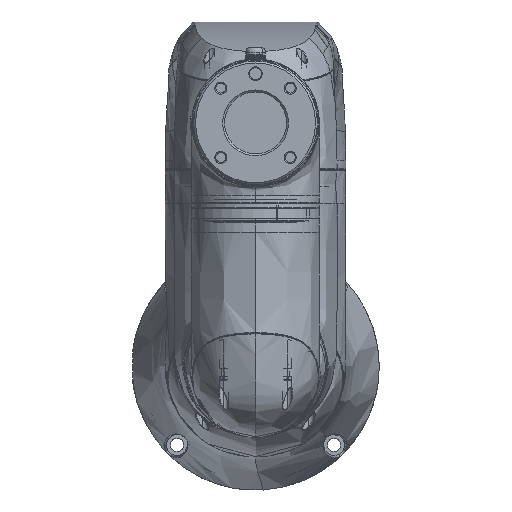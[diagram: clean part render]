
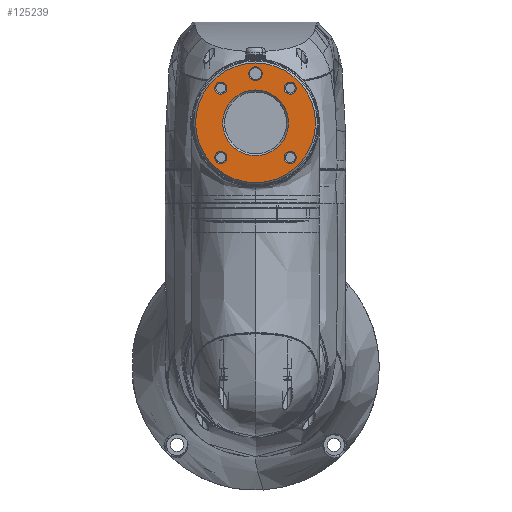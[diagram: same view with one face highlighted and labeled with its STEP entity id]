
A CAD part, front view. The second image highlights one B-rep face of the part: STEP entity #125239.
In plain terms, the highlighted planar face has unit normal (0, -1, 0) as drawn and (-1, 0, 0) by its records, which use the part's own axes.
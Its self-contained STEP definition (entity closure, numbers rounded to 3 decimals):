
#2010 = EDGE_LOOP ( 'NONE', ( #49815, #52928 ) ) ;
#3411 = CARTESIAN_POINT ( 'NONE',  ( 0., -17.678, 17.678 ) ) ;
#5147 = VERTEX_POINT ( 'NONE', #53038 ) ;
#5214 = DIRECTION ( 'NONE',  ( 1., 0., 0. ) ) ;
#5823 = CARTESIAN_POINT ( 'NONE',  ( 0., 0., -30.5 ) ) ;
#6008 = VERTEX_POINT ( 'NONE', #101699 ) ;
#6136 = EDGE_CURVE ( 'NONE', #36883, #63931, #36473, .T. ) ;
#6277 = EDGE_LOOP ( 'NONE', ( #105381, #55488 ) ) ;
#7405 = ORIENTED_EDGE ( 'NONE', *, *, #49925, .F. ) ;
#8824 = DIRECTION ( 'NONE',  ( -1., 0., 0. ) ) ;
#9298 = AXIS2_PLACEMENT_3D ( 'NONE', #58955, #69872, #27574 ) ;
#10654 = CIRCLE ( 'NONE', #100045, 3.1 ) ;
#12274 = DIRECTION ( 'NONE',  ( -1., 0., 0. ) ) ;
#12320 = DIRECTION ( 'NONE',  ( 0., 0., -1. ) ) ;
#12432 = VERTEX_POINT ( 'NONE', #47141 ) ;
#14435 = ORIENTED_EDGE ( 'NONE', *, *, #82551, .F. ) ;
#17187 = FACE_BOUND ( 'NONE', #77503, .T. ) ;
#17854 = CARTESIAN_POINT ( 'NONE',  ( 0., 15.75, 0. ) ) ;
#18501 = DIRECTION ( 'NONE',  ( -1., 0., 0. ) ) ;
#18795 = CIRCLE ( 'NONE', #108156, 3.1 ) ;
#21925 = CIRCLE ( 'NONE', #43738, 3.5 ) ;
#22811 = CARTESIAN_POINT ( 'NONE',  ( 0., -17.678, 14.578 ) ) ;
#24273 = CIRCLE ( 'NONE', #130872, 3.1 ) ;
#24545 = CARTESIAN_POINT ( 'NONE',  ( 0., 17.678, 17.678 ) ) ;
#24984 = CARTESIAN_POINT ( 'NONE',  ( 0., 0., -16.75 ) ) ;
#26289 = DIRECTION ( 'NONE',  ( 0., 0., -1. ) ) ;
#26534 = ORIENTED_EDGE ( 'NONE', *, *, #76037, .F. ) ;
#27410 = DIRECTION ( 'NONE',  ( 1., 0., 0. ) ) ;
#27574 = DIRECTION ( 'NONE',  ( 0., 0., -1. ) ) ;
#28105 = AXIS2_PLACEMENT_3D ( 'NONE', #101125, #27410, #58795 ) ;
#28307 = EDGE_LOOP ( 'NONE', ( #95023, #103275 ) ) ;
#28698 = DIRECTION ( 'NONE',  ( 0., 0., -1. ) ) ;
#29250 = CIRCLE ( 'NONE', #81635, 3.1 ) ;
#32166 = CARTESIAN_POINT ( 'NONE',  ( 0., 17.678, -17.678 ) ) ;
#33328 = EDGE_CURVE ( 'NONE', #46291, #6008, #82768, .T. ) ;
#33377 = DIRECTION ( 'NONE',  ( 0., 0., 1. ) ) ;
#33638 = DIRECTION ( 'NONE',  ( 0., 0., 1. ) ) ;
#34160 = CARTESIAN_POINT ( 'NONE',  ( 0., 0., 16.75 ) ) ;
#35013 = ORIENTED_EDGE ( 'NONE', *, *, #33328, .F. ) ;
#36473 = CIRCLE ( 'NONE', #82309, 16.75 ) ;
#36883 = VERTEX_POINT ( 'NONE', #24984 ) ;
#38075 = AXIS2_PLACEMENT_3D ( 'NONE', #17854, #101779, #28698 ) ;
#40302 = FACE_BOUND ( 'NONE', #2010, .T. ) ;
#40371 = DIRECTION ( 'NONE',  ( 0., 0., 1. ) ) ;
#42331 = CARTESIAN_POINT ( 'NONE',  ( 0., 25., 0. ) ) ;
#43738 = AXIS2_PLACEMENT_3D ( 'NONE', #42331, #106503, #12320 ) ;
#45781 = DIRECTION ( 'NONE',  ( 0., 0., -1. ) ) ;
#46291 = VERTEX_POINT ( 'NONE', #102856 ) ;
#47141 = CARTESIAN_POINT ( 'NONE',  ( 0., 25., -3.5 ) ) ;
#49734 = AXIS2_PLACEMENT_3D ( 'NONE', #89431, #107944, #45781 ) ;
#49815 = ORIENTED_EDGE ( 'NONE', *, *, #91338, .T. ) ;
#49925 = EDGE_CURVE ( 'NONE', #6008, #46291, #29250, .T. ) ;
#50366 = ORIENTED_EDGE ( 'NONE', *, *, #102253, .T. ) ;
#51041 = CARTESIAN_POINT ( 'NONE',  ( 0., 0., 30.5 ) ) ;
#51200 = FACE_OUTER_BOUND ( 'NONE', #106594, .T. ) ;
#52928 = ORIENTED_EDGE ( 'NONE', *, *, #6136, .T. ) ;
#53038 = CARTESIAN_POINT ( 'NONE',  ( 0., 17.678, 14.578 ) ) ;
#53884 = DIRECTION ( 'NONE',  ( 0., 0., 1. ) ) ;
#55488 = ORIENTED_EDGE ( 'NONE', *, *, #114371, .T. ) ;
#58795 = DIRECTION ( 'NONE',  ( 0., 0., -1. ) ) ;
#58955 = CARTESIAN_POINT ( 'NONE',  ( 0., 0., 0. ) ) ;
#59027 = ORIENTED_EDGE ( 'NONE', *, *, #129968, .F. ) ;
#59558 = VERTEX_POINT ( 'NONE', #87017 ) ;
#60125 = FACE_BOUND ( 'NONE', #6277, .T. ) ;
#60912 = EDGE_CURVE ( 'NONE', #101406, #133731, #18795, .T. ) ;
#62538 = CIRCLE ( 'NONE', #112609, 3.1 ) ;
#63931 = VERTEX_POINT ( 'NONE', #34160 ) ;
#66063 = CIRCLE ( 'NONE', #72583, 3.1 ) ;
#66303 = DIRECTION ( 'NONE',  ( 0., 0., -1. ) ) ;
#69185 = VERTEX_POINT ( 'NONE', #51041 ) ;
#69672 = FACE_BOUND ( 'NONE', #92957, .T. ) ;
#69872 = DIRECTION ( 'NONE',  ( -1., 0., 0. ) ) ;
#71990 = DIRECTION ( 'NONE',  ( -1., 0., 0. ) ) ;
#72583 = AXIS2_PLACEMENT_3D ( 'NONE', #119634, #95867, #86355 ) ;
#73162 = CIRCLE ( 'NONE', #88463, 3.1 ) ;
#73705 = CIRCLE ( 'NONE', #49734, 16.75 ) ;
#76037 = EDGE_CURVE ( 'NONE', #108737, #5147, #10654, .T. ) ;
#76564 = CARTESIAN_POINT ( 'NONE',  ( 0., 0., 0. ) ) ;
#76629 = DIRECTION ( 'NONE',  ( -1., 0., 0. ) ) ;
#77503 = EDGE_LOOP ( 'NONE', ( #127278, #59027 ) ) ;
#79964 = PLANE ( 'NONE',  #38075 ) ;
#80333 = EDGE_CURVE ( 'NONE', #131717, #12432, #21925, .T. ) ;
#80926 = DIRECTION ( 'NONE',  ( 0., 0., 1. ) ) ;
#81635 = AXIS2_PLACEMENT_3D ( 'NONE', #125713, #76629, #33638 ) ;
#81873 = DIRECTION ( 'NONE',  ( 0., 0., 1. ) ) ;
#82309 = AXIS2_PLACEMENT_3D ( 'NONE', #104878, #5214, #26289 ) ;
#82551 = EDGE_CURVE ( 'NONE', #5147, #108737, #24273, .T. ) ;
#82768 = CIRCLE ( 'NONE', #111081, 3.1 ) ;
#83436 = CIRCLE ( 'NONE', #9298, 30.5 ) ;
#84654 = DIRECTION ( 'NONE',  ( -1., 0., 0. ) ) ;
#84912 = VERTEX_POINT ( 'NONE', #116193 ) ;
#85554 = AXIS2_PLACEMENT_3D ( 'NONE', #76564, #118164, #66303 ) ;
#86355 = DIRECTION ( 'NONE',  ( 0., 0., 1. ) ) ;
#87017 = CARTESIAN_POINT ( 'NONE',  ( 0., -17.678, -20.778 ) ) ;
#87025 = CIRCLE ( 'NONE', #28105, 3.5 ) ;
#87688 = CIRCLE ( 'NONE', #85554, 30.5 ) ;
#88463 = AXIS2_PLACEMENT_3D ( 'NONE', #111196, #8824, #81873 ) ;
#89431 = CARTESIAN_POINT ( 'NONE',  ( 0., 0., 0. ) ) ;
#89989 = CARTESIAN_POINT ( 'NONE',  ( 0., -17.678, 20.778 ) ) ;
#91338 = EDGE_CURVE ( 'NONE', #63931, #36883, #73705, .T. ) ;
#92179 = FACE_BOUND ( 'NONE', #28307, .T. ) ;
#92871 = FACE_BOUND ( 'NONE', #114666, .T. ) ;
#92957 = EDGE_LOOP ( 'NONE', ( #26534, #14435 ) ) ;
#94330 = VERTEX_POINT ( 'NONE', #5823 ) ;
#95023 = ORIENTED_EDGE ( 'NONE', *, *, #60912, .F. ) ;
#95867 = DIRECTION ( 'NONE',  ( -1., 0., 0. ) ) ;
#100045 = AXIS2_PLACEMENT_3D ( 'NONE', #125322, #18501, #111298 ) ;
#101125 = CARTESIAN_POINT ( 'NONE',  ( 0., 25., 0. ) ) ;
#101139 = CARTESIAN_POINT ( 'NONE',  ( 0., 25., 3.5 ) ) ;
#101406 = VERTEX_POINT ( 'NONE', #89989 ) ;
#101699 = CARTESIAN_POINT ( 'NONE',  ( 0., 17.678, -14.578 ) ) ;
#101779 = DIRECTION ( 'NONE',  ( 1., 0., 0. ) ) ;
#102253 = EDGE_CURVE ( 'NONE', #94330, #69185, #87688, .T. ) ;
#102856 = CARTESIAN_POINT ( 'NONE',  ( 0., 17.678, -20.778 ) ) ;
#103275 = ORIENTED_EDGE ( 'NONE', *, *, #134139, .F. ) ;
#104878 = CARTESIAN_POINT ( 'NONE',  ( 0., 0., 0. ) ) ;
#105381 = ORIENTED_EDGE ( 'NONE', *, *, #80333, .T. ) ;
#106503 = DIRECTION ( 'NONE',  ( 1., 0., 0. ) ) ;
#106594 = EDGE_LOOP ( 'NONE', ( #50366, #119079 ) ) ;
#107944 = DIRECTION ( 'NONE',  ( 1., 0., 0. ) ) ;
#108156 = AXIS2_PLACEMENT_3D ( 'NONE', #3411, #12274, #33377 ) ;
#108737 = VERTEX_POINT ( 'NONE', #112579 ) ;
#111081 = AXIS2_PLACEMENT_3D ( 'NONE', #32166, #116061, #40371 ) ;
#111196 = CARTESIAN_POINT ( 'NONE',  ( 0., -17.678, -17.678 ) ) ;
#111298 = DIRECTION ( 'NONE',  ( 0., 0., 1. ) ) ;
#112579 = CARTESIAN_POINT ( 'NONE',  ( 0., 17.678, 20.778 ) ) ;
#112609 = AXIS2_PLACEMENT_3D ( 'NONE', #123780, #71990, #80926 ) ;
#114371 = EDGE_CURVE ( 'NONE', #12432, #131717, #87025, .T. ) ;
#114666 = EDGE_LOOP ( 'NONE', ( #7405, #35013 ) ) ;
#116061 = DIRECTION ( 'NONE',  ( -1., 0., 0. ) ) ;
#116193 = CARTESIAN_POINT ( 'NONE',  ( 0., -17.678, -14.578 ) ) ;
#117521 = EDGE_CURVE ( 'NONE', #69185, #94330, #83436, .T. ) ;
#118164 = DIRECTION ( 'NONE',  ( -1., 0., 0. ) ) ;
#119079 = ORIENTED_EDGE ( 'NONE', *, *, #117521, .T. ) ;
#119634 = CARTESIAN_POINT ( 'NONE',  ( 0., -17.678, -17.678 ) ) ;
#123780 = CARTESIAN_POINT ( 'NONE',  ( 0., -17.678, 17.678 ) ) ;
#125239 = ADVANCED_FACE ( 'NONE', ( #51200, #92871, #69672, #92179, #17187, #60125, #40302 ), #79964, .F. ) ;
#125322 = CARTESIAN_POINT ( 'NONE',  ( 0., 17.678, 17.678 ) ) ;
#125713 = CARTESIAN_POINT ( 'NONE',  ( 0., 17.678, -17.678 ) ) ;
#126032 = EDGE_CURVE ( 'NONE', #84912, #59558, #73162, .T. ) ;
#127278 = ORIENTED_EDGE ( 'NONE', *, *, #126032, .F. ) ;
#129968 = EDGE_CURVE ( 'NONE', #59558, #84912, #66063, .T. ) ;
#130872 = AXIS2_PLACEMENT_3D ( 'NONE', #24545, #84654, #53884 ) ;
#131717 = VERTEX_POINT ( 'NONE', #101139 ) ;
#133731 = VERTEX_POINT ( 'NONE', #22811 ) ;
#134139 = EDGE_CURVE ( 'NONE', #133731, #101406, #62538, .T. ) ;
